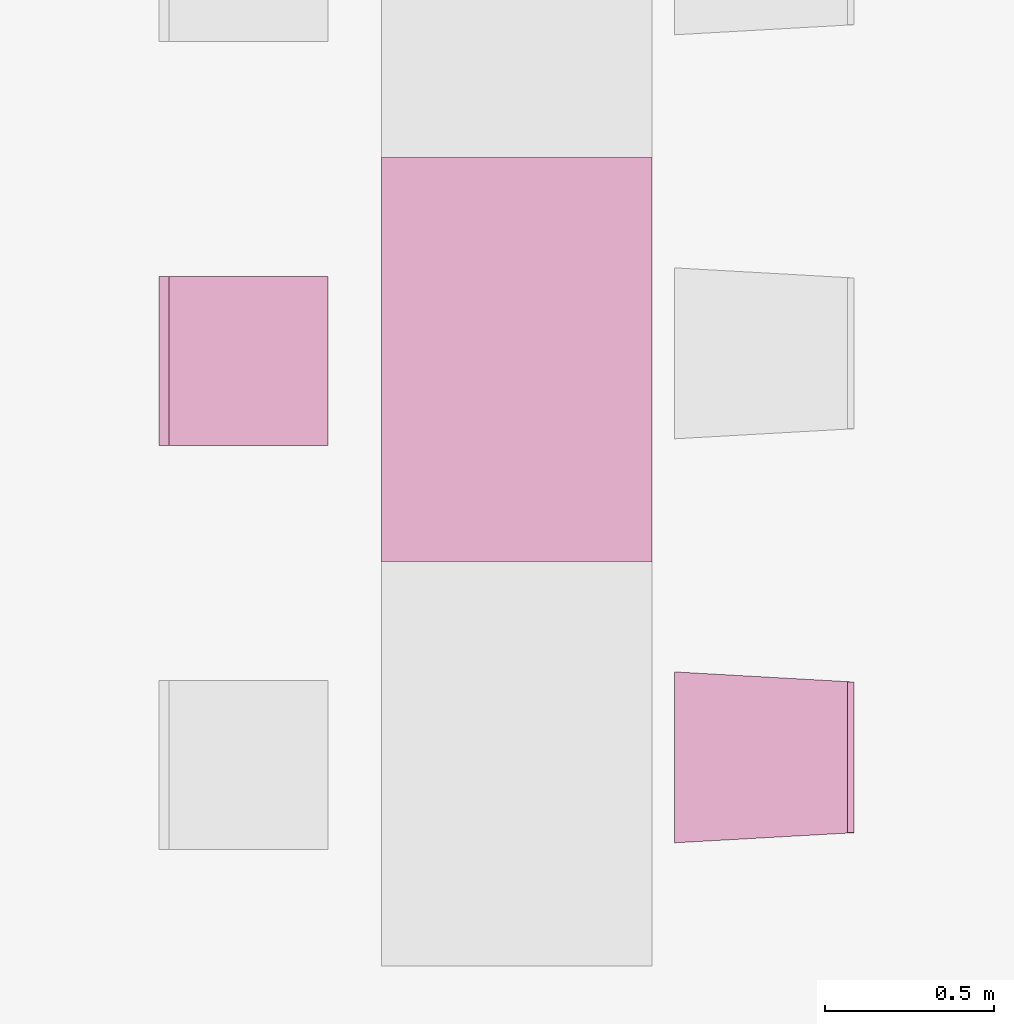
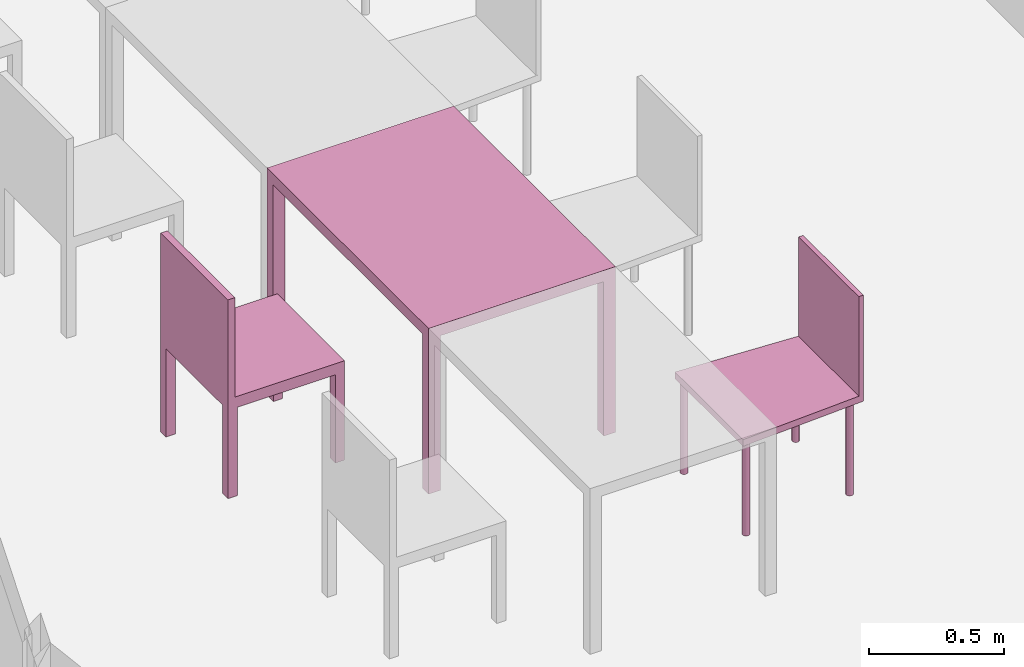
"""IFC4 building model written with IfcOpenShell, lengths in metres."""

from ifc_helpers import new_model, entity, si_unit, converted_unit, derived_unit, frame, origin, place, context, subcontext, project, spatial, faceted_brep, element, save


model = new_model("IFC4")

# Units and contexts
model_context = context("Model", 3, precision=1e-05, world=origin())
body_context = subcontext(model_context, "Body", "Model", "MODEL_VIEW")
ifc_project = project(units=[si_unit("LENGTHUNIT", "METRE"), si_unit("AREAUNIT", "SQUARE_METRE"), si_unit("VOLUMEUNIT", "CUBIC_METRE"), si_unit("MASSUNIT", "GRAM", prefix="KILO"), converted_unit("PLANEANGLEUNIT", "DEGREE", entity("IfcPlaneAngleMeasure", 0.0174532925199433), si_unit("PLANEANGLEUNIT", "RADIAN"), dimensions=[0, 0, 0, 0, 0, 0, 0]), derived_unit("THERMALTRANSMITTANCEUNIT", [(si_unit("POWERUNIT", "WATT"), 1), (si_unit("THERMODYNAMICTEMPERATUREUNIT", "KELVIN"), -1), (si_unit("LENGTHUNIT", "METRE"), -2)]), derived_unit("VOLUMETRICFLOWRATEUNIT", [(si_unit("LENGTHUNIT", "METRE"), 3), (converted_unit("TIMEUNIT", "hour", entity("IfcTimeMeasure", 3600.0), si_unit("TIMEUNIT", "SECOND"), dimensions=[0, 0, 1, 0, 0, 0, 0]), -1), (si_unit("LENGTHUNIT", "METRE"), -1)])], contexts=[model_context])

# Building, storeys
building_placement = place(None, origin())
building = spatial("IfcBuilding", under=ifc_project, at=building_placement, Name="HABITATGE PLURIFAMILIAR", CompositionType="ELEMENT")
storey_1_placement = place(building_placement, frame((0.0, 0.0, 6.25)))
storey_1 = spatial("IfcBuildingStorey", under=building, at=storey_1_placement, Name="PLANTA PRIMERA", CompositionType="ELEMENT", Elevation=6.25)
storey_2_placement = place(storey_1_placement, frame((0.0, 0.0, 3.35)))
storey_2 = spatial("IfcBuildingStorey", under=storey_1, at=storey_2_placement, Name="NOU", CompositionType="PARTIAL")

# Furniture
furniture_1_placement = place(storey_2_placement, frame((418.017336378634, 19.4002786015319, -3.35)))
element("IfcFurniture", 1, at=furniture_1_placement, inside=storey_2, Name="Taula 120X80_P1", context=body_context, shape_type="Brep", body=[
    faceted_brep([(0.750069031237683, 0.0464285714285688, 0.0), (0.750069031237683, 0.0, 0.0), (0.800069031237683, 0.0, 0.0), (0.800069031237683, 0.0464285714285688, 0.0), (0.800069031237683, 0.0464285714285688, 0.7), (0.800069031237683, 0.0, 0.7), (0.750069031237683, 0.0, 0.7), (0.750069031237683, 0.0464285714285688, 0.7)], [[[0, 1, 2, 3]], [[4, 5, 6, 7]], [[3, 4, 7, 0]], [[2, 5, 4, 3]], [[1, 6, 5, 2]], [[0, 7, 6, 1]]], orient=[[False], [False], [False], [False], [False], [False]]),
    faceted_brep([(0.0, 0.0464285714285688, 0.0), (0.0, 0.0, 0.0), (0.0500000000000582, 0.0, 0.0), (0.0500000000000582, 0.0464285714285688, 0.0), (0.0500000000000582, 0.0464285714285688, 0.7), (0.0500000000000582, 0.0, 0.7), (0.0, 0.0, 0.7), (0.0, 0.0464285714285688, 0.7)], [[[0, 1, 2, 3]], [[4, 5, 6, 7]], [[3, 4, 7, 0]], [[2, 5, 4, 3]], [[1, 6, 5, 2]], [[0, 7, 6, 1]]], orient=[[False], [False], [False], [False], [False], [False]]),
    faceted_brep([(0.750069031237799, 1.2, 0.0), (0.750069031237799, 1.15357142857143, 0.0), (0.800069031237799, 1.15357142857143, 0.0), (0.800069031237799, 1.2, 0.0), (0.800069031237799, 1.2, 0.7), (0.800069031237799, 1.15357142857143, 0.7), (0.750069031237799, 1.15357142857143, 0.7), (0.750069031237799, 1.2, 0.7)], [[[0, 1, 2, 3]], [[4, 5, 6, 7]], [[3, 4, 7, 0]], [[2, 5, 4, 3]], [[1, 6, 5, 2]], [[0, 7, 6, 1]]], orient=[[False], [False], [False], [False], [False], [False]]),
    faceted_brep([(0.0, 1.2, 0.0), (0.0, 1.15357142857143, 0.0), (0.0500000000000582, 1.15357142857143, 0.0), (0.0500000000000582, 1.2, 0.0), (0.0500000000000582, 1.2, 0.7), (0.0500000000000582, 1.15357142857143, 0.7), (0.0, 1.15357142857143, 0.7), (0.0, 1.2, 0.7)], [[[0, 1, 2, 3]], [[4, 5, 6, 7]], [[3, 4, 7, 0]], [[2, 5, 4, 3]], [[1, 6, 5, 2]], [[0, 7, 6, 1]]], orient=[[False], [False], [False], [False], [False], [False]]),
    faceted_brep([(0.0, 1.2, 0.7), (0.0, 0.0, 0.7), (0.800069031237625, 0.0, 0.7), (0.800069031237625, 1.2, 0.7), (0.800069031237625, 1.2, 0.75), (0.800069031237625, 0.0, 0.75), (0.0, 0.0, 0.75), (0.0, 1.2, 0.75)], [[[0, 1, 2, 3]], [[4, 5, 6, 7]], [[3, 4, 7, 0]], [[2, 5, 4, 3]], [[1, 6, 5, 2]], [[0, 7, 6, 1]]], orient=[[False], [False], [False], [False], [False], [False]]),
])
furniture_2_placement = place(storey_2_placement, frame((417.357575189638, 19.7462469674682, -3.34942958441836)))
element("IfcFurniture", 2, at=furniture_2_placement, inside=storey_2, Name="Cadira d'Oficina_P1", context=body_context, shape_type="Brep", body=[
    faceted_brep([(0.5, 0.0, 0.4), (0.5, 0.5, 0.4), (0.0, 0.5, 0.4), (0.0, 0.0, 0.4), (0.0, 0.0, 0.45), (0.0, 0.5, 0.45), (0.5, 0.5, 0.45), (0.5, 0.0, 0.45)], [[[0, 1, 2, 3]], [[4, 5, 6, 7]], [[3, 4, 7, 0]], [[2, 5, 4, 3]], [[1, 6, 5, 2]], [[0, 7, 6, 1]]], orient=[[False], [False], [False], [False], [False], [False]]),
    faceted_brep([(0.04, 0.5, 0.0), (0.0, 0.5, 0.0), (0.0, 0.46, 0.0), (0.04, 0.46, 0.0), (0.04, 0.46, 0.4), (0.0, 0.46, 0.4), (0.0, 0.5, 0.4), (0.04, 0.5, 0.4)], [[[0, 1, 2, 3]], [[4, 5, 6, 7]], [[3, 4, 7, 0]], [[2, 5, 4, 3]], [[1, 6, 5, 2]], [[0, 7, 6, 1]]], orient=[[False], [False], [False], [False], [False], [False]]),
    faceted_brep([(0.5, 0.5, 0.0), (0.46, 0.5, 0.0), (0.46, 0.46, 0.0), (0.5, 0.46, 0.0), (0.5, 0.46, 0.4), (0.46, 0.46, 0.4), (0.46, 0.5, 0.4), (0.5, 0.5, 0.4)], [[[0, 1, 2, 3]], [[4, 5, 6, 7]], [[3, 4, 7, 0]], [[2, 5, 4, 3]], [[1, 6, 5, 2]], [[0, 7, 6, 1]]], orient=[[False], [False], [False], [False], [False], [False]]),
    faceted_brep([(0.04, 0.04, 0.0), (0.0, 0.04, 0.0), (0.0, 0.0, 0.0), (0.04, 0.0, 0.0), (0.04, 0.0, 0.4), (0.0, 0.0, 0.4), (0.0, 0.04, 0.4), (0.04, 0.04, 0.4)], [[[0, 1, 2, 3]], [[4, 5, 6, 7]], [[3, 4, 7, 0]], [[2, 5, 4, 3]], [[1, 6, 5, 2]], [[0, 7, 6, 1]]], orient=[[False], [False], [False], [False], [False], [False]]),
    faceted_brep([(0.5, 0.04, 0.0), (0.46, 0.04, 0.0), (0.46, 0.0, 0.0), (0.5, 0.0, 0.0), (0.5, 0.0, 0.4), (0.46, 0.0, 0.4), (0.46, 0.04, 0.4), (0.5, 0.04, 0.4)], [[[0, 1, 2, 3]], [[4, 5, 6, 7]], [[3, 4, 7, 0]], [[2, 5, 4, 3]], [[1, 6, 5, 2]], [[0, 7, 6, 1]]], orient=[[False], [False], [False], [False], [False], [False]]),
    faceted_brep([(0.03, 0.5, 0.45), (0.0, 0.5, 0.45), (0.0, 0.0, 0.45), (0.03, 0.0, 0.45), (0.03, 0.0, 0.9), (0.0, 0.0, 0.9), (0.0, 0.5, 0.9), (0.03, 0.5, 0.9)], [[[0, 1, 2, 3]], [[4, 5, 6, 7]], [[3, 4, 7, 0]], [[2, 5, 4, 3]], [[1, 6, 5, 2]], [[0, 7, 6, 1]]], orient=[[False], [False], [False], [False], [False], [False]]),
])
furniture_3_placement = place(storey_2_placement, frame((418.884487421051, 18.5688008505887, -3.35114412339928)))
element("IfcFurniture", 3, at=furniture_3_placement, inside=storey_2, Name="Cadira confient_P1", context=body_context, shape_type="Brep", body=[
    faceted_brep([(0.0250324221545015, 0.497227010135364, 0.0), (0.0224394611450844, 0.496988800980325, 0.0), (0.0199272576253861, 0.496303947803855, 0.0), (0.0175721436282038, 0.495193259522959, 0.0), (0.0154456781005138, 0.493690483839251, 0.0), (0.013612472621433, 0.491841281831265, 0.0), (0.0121282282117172, 0.489701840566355, 0.0), (0.0110380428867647, 0.487337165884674, 0.0), (0.010375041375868, 0.484819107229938, 0.0), (0.0101593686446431, 0.482224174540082, 0.0), (0.0103975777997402, 0.479631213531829, 0.0), (0.0110824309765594, 0.477119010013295, 0.0), (0.0121931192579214, 0.474763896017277, 0.0), (0.0136958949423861, 0.472637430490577, 0.0), (0.0155450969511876, 0.470804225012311, 0.0), (0.017684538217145, 0.469319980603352, 0.0), (0.020049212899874, 0.468229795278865, 0.0), (0.0225672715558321, 0.467566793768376, 0.0), (0.0251622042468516, 0.467351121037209, 0.0), (0.027755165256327, 0.46758933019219, 0.0), (0.030267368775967, 0.468274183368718, 0.0), (0.0326224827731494, 0.469384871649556, 0.0), (0.0347489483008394, 0.470887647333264, 0.0), (0.0365821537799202, 0.472736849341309, 0.0), (0.0380663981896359, 0.474876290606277, 0.0), (0.0391565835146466, 0.477240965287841, 0.0), (0.0398195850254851, 0.479759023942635, 0.0), (0.0400352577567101, 0.482353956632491, 0.0), (0.0397970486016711, 0.484946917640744, 0.0), (0.0391121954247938, 0.48745912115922, 0.0), (0.03800150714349, 0.489814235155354, 0.0), (0.0364987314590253, 0.491940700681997, 0.0), (0.0346495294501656, 0.493773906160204, 0.0), (0.0325100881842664, 0.495258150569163, 0.0), (0.0301454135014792, 0.496348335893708, 0.0), (0.0276273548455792, 0.497011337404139, 0.0), (0.0250324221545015, 0.497227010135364, 0.448281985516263), (0.0276273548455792, 0.497011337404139, 0.448281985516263), (0.0301454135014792, 0.496348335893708, 0.448281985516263), (0.0325100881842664, 0.495258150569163, 0.448281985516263), (0.0346495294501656, 0.493773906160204, 0.448281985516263), (0.0364987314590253, 0.491940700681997, 0.448281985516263), (0.03800150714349, 0.489814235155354, 0.448281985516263), (0.0391121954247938, 0.48745912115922, 0.448281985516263), (0.0397970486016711, 0.484946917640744, 0.448281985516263), (0.0400352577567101, 0.482353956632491, 0.448281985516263), (0.0398195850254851, 0.479759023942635, 0.448281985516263), (0.0391565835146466, 0.477240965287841, 0.448281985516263), (0.0380663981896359, 0.474876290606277, 0.448281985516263), (0.0365821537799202, 0.472736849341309, 0.448281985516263), (0.0347489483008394, 0.470887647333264, 0.448281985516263), (0.0326224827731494, 0.469384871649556, 0.448281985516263), (0.030267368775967, 0.468274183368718, 0.448281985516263), (0.027755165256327, 0.46758933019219, 0.448281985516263), (0.0251622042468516, 0.467351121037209, 0.448281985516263), (0.0225672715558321, 0.467566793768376, 0.448281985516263), (0.020049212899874, 0.468229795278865, 0.448281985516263), (0.017684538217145, 0.469319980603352, 0.448281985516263), (0.0155450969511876, 0.470804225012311, 0.448281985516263), (0.0136958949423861, 0.472637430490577, 0.448281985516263), (0.0121931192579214, 0.474763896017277, 0.448281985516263), (0.0110824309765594, 0.477119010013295, 0.448281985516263), (0.0103975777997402, 0.479631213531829, 0.448281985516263), (0.0101593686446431, 0.482224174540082, 0.448281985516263), (0.010375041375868, 0.484819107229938, 0.448281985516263), (0.0110380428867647, 0.487337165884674, 0.448281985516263), (0.0121282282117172, 0.489701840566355, 0.448281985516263), (0.013612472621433, 0.491841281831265, 0.448281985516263), (0.0154456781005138, 0.493690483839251, 0.448281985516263), (0.0175721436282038, 0.495193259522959, 0.448281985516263), (0.0199272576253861, 0.496303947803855, 0.448281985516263), (0.0224394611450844, 0.496988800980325, 0.448281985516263)], [[[0, 1, 2, 3, 4, 5, 6, 7, 8, 9, 10, 11, 12, 13, 14, 15, 16, 17, 18, 19, 20, 21, 22, 23, 24, 25, 26, 27, 28, 29, 30, 31, 32, 33, 34, 35]], [[36, 37, 38, 39, 40, 41, 42, 43, 44, 45, 46, 47, 48, 49, 50, 51, 52, 53, 54, 55, 56, 57, 58, 59, 60, 61, 62, 63, 64, 65, 66, 67, 68, 69, 70, 71]], [[35, 37, 36, 0]], [[34, 38, 37, 35]], [[33, 39, 38, 34]], [[32, 40, 39, 33]], [[31, 41, 40, 32]], [[30, 42, 41, 31]], [[29, 43, 42, 30]], [[28, 44, 43, 29]], [[27, 45, 44, 28]], [[26, 46, 45, 27]], [[25, 47, 46, 26]], [[24, 48, 47, 25]], [[23, 49, 48, 24]], [[22, 50, 49, 23]], [[21, 51, 50, 22]], [[20, 52, 51, 21]], [[19, 53, 52, 20]], [[18, 54, 53, 19]], [[17, 55, 54, 18]], [[16, 56, 55, 17]], [[15, 57, 56, 16]], [[14, 58, 57, 15]], [[13, 59, 58, 14]], [[12, 60, 59, 13]], [[11, 61, 60, 12]], [[10, 62, 61, 11]], [[9, 63, 62, 10]], [[8, 64, 63, 9]], [[7, 65, 64, 8]], [[6, 66, 65, 7]], [[5, 67, 66, 6]], [[4, 68, 67, 5]], [[3, 69, 68, 4]], [[2, 70, 69, 3]], [[1, 71, 70, 2]], [[0, 36, 71, 1]]], orient=[[False], [False], [False], [False], [False], [False], [False], [False], [False], [False], [False], [False], [False], [False], [False], [False], [False], [False], [False], [False], [False], [False], [False], [False], [False], [False], [False], [False], [False], [False], [False], [False], [False], [False], [False], [False], [False], [False]]),
    faceted_brep([(0.487439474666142, 0.469589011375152, 0.0), (0.484846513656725, 0.469350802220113, 0.0), (0.482334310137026, 0.468665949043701, 0.0), (0.479979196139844, 0.467555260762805, 0.0), (0.477852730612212, 0.466052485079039, 0.0), (0.476019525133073, 0.464203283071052, 0.0), (0.474535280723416, 0.462063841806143, 0.0), (0.473445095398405, 0.45969916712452, 0.0), (0.472782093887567, 0.457181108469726, 0.0), (0.472566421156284, 0.45458617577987, 0.0), (0.472804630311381, 0.451993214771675, 0.0), (0.473489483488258, 0.449481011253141, 0.0), (0.474600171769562, 0.447125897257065, 0.0), (0.476102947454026, 0.444999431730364, 0.0), (0.477952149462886, 0.443166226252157, 0.0), (0.480091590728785, 0.441681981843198, 0.0), (0.482456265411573, 0.440591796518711, 0.0), (0.484974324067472, 0.439928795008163, 0.0), (0.48756925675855, 0.439713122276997, 0.0), (0.490162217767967, 0.439951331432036, 0.0), (0.492674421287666, 0.440636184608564, 0.0), (0.495029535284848, 0.441746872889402, 0.0), (0.49715600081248, 0.443249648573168, 0.0), (0.498989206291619, 0.445098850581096, 0.0), (0.500473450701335, 0.447238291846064, 0.0), (0.501563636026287, 0.449602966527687, 0.0), (0.502226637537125, 0.452121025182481, 0.0), (0.502442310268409, 0.454715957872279, 0.0), (0.502204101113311, 0.457308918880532, 0.0), (0.501519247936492, 0.459821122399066, 0.0), (0.50040855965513, 0.462176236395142, 0.0), (0.498905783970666, 0.464302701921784, 0.0), (0.497056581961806, 0.46613590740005, 0.0), (0.494917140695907, 0.467620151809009, 0.0), (0.492552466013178, 0.468710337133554, 0.0), (0.49003440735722, 0.469373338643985, 0.0), (0.487439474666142, 0.469589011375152, 0.448281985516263), (0.49003440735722, 0.469373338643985, 0.448281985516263), (0.492552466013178, 0.468710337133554, 0.448281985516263), (0.494917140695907, 0.467620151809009, 0.448281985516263), (0.497056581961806, 0.46613590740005, 0.448281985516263), (0.498905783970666, 0.464302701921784, 0.448281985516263), (0.50040855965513, 0.462176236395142, 0.448281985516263), (0.501519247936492, 0.459821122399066, 0.448281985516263), (0.502204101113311, 0.457308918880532, 0.448281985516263), (0.502442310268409, 0.454715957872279, 0.448281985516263), (0.502226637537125, 0.452121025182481, 0.448281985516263), (0.501563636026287, 0.449602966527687, 0.448281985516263), (0.500473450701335, 0.447238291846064, 0.448281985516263), (0.498989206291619, 0.445098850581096, 0.448281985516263), (0.49715600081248, 0.443249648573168, 0.448281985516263), (0.495029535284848, 0.441746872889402, 0.448281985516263), (0.492674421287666, 0.440636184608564, 0.448281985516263), (0.490162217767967, 0.439951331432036, 0.448281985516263), (0.48756925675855, 0.439713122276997, 0.448281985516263), (0.484974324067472, 0.439928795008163, 0.448281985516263), (0.482456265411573, 0.440591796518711, 0.448281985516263), (0.480091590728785, 0.441681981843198, 0.448281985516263), (0.477952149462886, 0.443166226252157, 0.448281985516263), (0.476102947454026, 0.444999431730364, 0.448281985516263), (0.474600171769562, 0.447125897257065, 0.448281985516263), (0.473489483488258, 0.449481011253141, 0.448281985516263), (0.472804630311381, 0.451993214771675, 0.448281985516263), (0.472566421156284, 0.45458617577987, 0.448281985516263), (0.472782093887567, 0.457181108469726, 0.448281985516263), (0.473445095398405, 0.45969916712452, 0.448281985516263), (0.474535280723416, 0.462063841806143, 0.448281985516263), (0.476019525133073, 0.464203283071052, 0.448281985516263), (0.477852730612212, 0.466052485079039, 0.448281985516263), (0.479979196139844, 0.467555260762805, 0.448281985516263), (0.482334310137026, 0.468665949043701, 0.448281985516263), (0.484846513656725, 0.469350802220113, 0.448281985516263)], [[[0, 1, 2, 3, 4, 5, 6, 7, 8, 9, 10, 11, 12, 13, 14, 15, 16, 17, 18, 19, 20, 21, 22, 23, 24, 25, 26, 27, 28, 29, 30, 31, 32, 33, 34, 35]], [[36, 37, 38, 39, 40, 41, 42, 43, 44, 45, 46, 47, 48, 49, 50, 51, 52, 53, 54, 55, 56, 57, 58, 59, 60, 61, 62, 63, 64, 65, 66, 67, 68, 69, 70, 71]], [[35, 37, 36, 0]], [[34, 38, 37, 35]], [[33, 39, 38, 34]], [[32, 40, 39, 33]], [[31, 41, 40, 32]], [[30, 42, 41, 31]], [[29, 43, 42, 30]], [[28, 44, 43, 29]], [[27, 45, 44, 28]], [[26, 46, 45, 27]], [[25, 47, 46, 26]], [[24, 48, 47, 25]], [[23, 49, 48, 24]], [[22, 50, 49, 23]], [[21, 51, 50, 22]], [[20, 52, 51, 21]], [[19, 53, 52, 20]], [[18, 54, 53, 19]], [[17, 55, 54, 18]], [[16, 56, 55, 17]], [[15, 57, 56, 16]], [[14, 58, 57, 15]], [[13, 59, 58, 14]], [[12, 60, 59, 13]], [[11, 61, 60, 12]], [[10, 62, 61, 11]], [[9, 63, 62, 10]], [[8, 64, 63, 9]], [[7, 65, 64, 8]], [[6, 66, 65, 7]], [[5, 67, 66, 6]], [[4, 68, 67, 5]], [[3, 69, 68, 4]], [[2, 70, 69, 3]], [[1, 71, 70, 2]], [[0, 36, 71, 1]]], orient=[[False], [False], [False], [False], [False], [False], [False], [False], [False], [False], [False], [False], [False], [False], [False], [False], [False], [False], [False], [False], [False], [False], [False], [False], [False], [False], [False], [False], [False], [False], [False], [False], [False], [False], [False], [False], [False], [False]]),
    faceted_brep([(0.0250324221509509, 0.037227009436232, 0.0), (0.0224394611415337, 0.0369888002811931, 0.0), (0.0199272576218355, 0.036303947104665, 0.0), (0.0175721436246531, 0.0351932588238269, 0.0), (0.0154456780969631, 0.0336904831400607, 0.0), (0.0136124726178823, 0.0318412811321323, 0.0), (0.0121282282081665, 0.0297018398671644, 0.0), (0.0110380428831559, 0.0273371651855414, 0.0), (0.0103750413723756, 0.0248191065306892, 0.0), (0.0101593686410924, 0.022224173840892, 0.0), (0.0103975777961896, 0.019631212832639, 0.0), (0.0110824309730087, 0.0171190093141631, 0.0), (0.0121931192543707, 0.0147638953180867, 0.0), (0.0136958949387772, 0.0126374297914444, 0.0), (0.0155450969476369, 0.0108042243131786, 0.0), (0.0176845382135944, 0.00931997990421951, 0.0), (0.0200492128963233, 0.00822979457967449, 0.0), (0.0225672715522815, 0.00756679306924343, 0.0), (0.0251622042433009, 0.00735112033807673, 0.0), (0.0277551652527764, 0.00758932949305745, 0.0), (0.0302673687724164, 0.00827418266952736, 0.0), (0.0326224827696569, 0.00938487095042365, 0.0), (0.0347489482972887, 0.0108876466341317, 0.0), (0.0365821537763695, 0.0127368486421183, 0.0), (0.0380663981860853, 0.014876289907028, 0.0), (0.039156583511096, 0.0172409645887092, 0.0), (0.0398195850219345, 0.0197590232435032, 0.0), (0.0400352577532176, 0.0223539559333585, 0.0), (0.0397970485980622, 0.0249469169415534, 0.0), (0.0391121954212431, 0.0274591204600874, 0.0), (0.0380015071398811, 0.0298142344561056, 0.0), (0.0364987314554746, 0.0319406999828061, 0.0), (0.0346495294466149, 0.0337739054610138, 0.0), (0.0325100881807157, 0.035258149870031, 0.0), (0.0301454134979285, 0.0363483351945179, 0.0), (0.0276273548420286, 0.0370113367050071, 0.0), (0.0250324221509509, 0.037227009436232, 0.448281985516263), (0.0276273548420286, 0.0370113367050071, 0.448281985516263), (0.0301454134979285, 0.0363483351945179, 0.448281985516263), (0.0325100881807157, 0.035258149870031, 0.448281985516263), (0.0346495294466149, 0.0337739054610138, 0.448281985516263), (0.0364987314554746, 0.0319406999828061, 0.448281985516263), (0.0380015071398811, 0.0298142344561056, 0.448281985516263), (0.0391121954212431, 0.0274591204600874, 0.448281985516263), (0.0397970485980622, 0.0249469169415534, 0.448281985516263), (0.0400352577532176, 0.0223539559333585, 0.448281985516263), (0.0398195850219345, 0.0197590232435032, 0.448281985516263), (0.039156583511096, 0.0172409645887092, 0.448281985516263), (0.0380663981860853, 0.014876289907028, 0.448281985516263), (0.0365821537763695, 0.0127368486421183, 0.448281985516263), (0.0347489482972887, 0.0108876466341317, 0.448281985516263), (0.0326224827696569, 0.00938487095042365, 0.448281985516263), (0.0302673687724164, 0.00827418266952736, 0.448281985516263), (0.0277551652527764, 0.00758932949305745, 0.448281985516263), (0.0251622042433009, 0.00735112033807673, 0.448281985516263), (0.0225672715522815, 0.00756679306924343, 0.448281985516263), (0.0200492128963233, 0.00822979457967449, 0.448281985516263), (0.0176845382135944, 0.00931997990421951, 0.448281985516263), (0.0155450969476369, 0.0108042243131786, 0.448281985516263), (0.0136958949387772, 0.0126374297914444, 0.448281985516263), (0.0121931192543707, 0.0147638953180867, 0.448281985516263), (0.0110824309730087, 0.0171190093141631, 0.448281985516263), (0.0103975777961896, 0.019631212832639, 0.448281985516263), (0.0101593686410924, 0.022224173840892, 0.448281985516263), (0.0103750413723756, 0.0248191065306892, 0.448281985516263), (0.0110380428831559, 0.0273371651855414, 0.448281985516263), (0.0121282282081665, 0.0297018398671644, 0.448281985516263), (0.0136124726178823, 0.0318412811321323, 0.448281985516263), (0.0154456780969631, 0.0336904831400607, 0.448281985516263), (0.0175721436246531, 0.0351932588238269, 0.448281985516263), (0.0199272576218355, 0.036303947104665, 0.448281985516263), (0.0224394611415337, 0.0369888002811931, 0.448281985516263)], [[[0, 1, 2, 3, 4, 5, 6, 7, 8, 9, 10, 11, 12, 13, 14, 15, 16, 17, 18, 19, 20, 21, 22, 23, 24, 25, 26, 27, 28, 29, 30, 31, 32, 33, 34, 35]], [[36, 37, 38, 39, 40, 41, 42, 43, 44, 45, 46, 47, 48, 49, 50, 51, 52, 53, 54, 55, 56, 57, 58, 59, 60, 61, 62, 63, 64, 65, 66, 67, 68, 69, 70, 71]], [[35, 37, 36, 0]], [[34, 38, 37, 35]], [[33, 39, 38, 34]], [[32, 40, 39, 33]], [[31, 41, 40, 32]], [[30, 42, 41, 31]], [[29, 43, 42, 30]], [[28, 44, 43, 29]], [[27, 45, 44, 28]], [[26, 46, 45, 27]], [[25, 47, 46, 26]], [[24, 48, 47, 25]], [[23, 49, 48, 24]], [[22, 50, 49, 23]], [[21, 51, 50, 22]], [[20, 52, 51, 21]], [[19, 53, 52, 20]], [[18, 54, 53, 19]], [[17, 55, 54, 18]], [[16, 56, 55, 17]], [[15, 57, 56, 16]], [[14, 58, 57, 15]], [[13, 59, 58, 14]], [[12, 60, 59, 13]], [[11, 61, 60, 12]], [[10, 62, 61, 11]], [[9, 63, 62, 10]], [[8, 64, 63, 9]], [[7, 65, 64, 8]], [[6, 66, 65, 7]], [[5, 67, 66, 6]], [[4, 68, 67, 5]], [[3, 69, 68, 4]], [[2, 70, 69, 3]], [[1, 71, 70, 2]], [[0, 36, 71, 1]]], orient=[[False], [False], [False], [False], [False], [False], [False], [False], [False], [False], [False], [False], [False], [False], [False], [False], [False], [False], [False], [False], [False], [False], [False], [False], [False], [False], [False], [False], [False], [False], [False], [False], [False], [False], [False], [False], [False], [False]]),
    faceted_brep([(0.487439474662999, 0.0695890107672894, 0.0), (0.484846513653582, 0.0693508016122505, 0.0), (0.482334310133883, 0.0686659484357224, 0.0), (0.479979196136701, 0.0675552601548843, 0.0), (0.477852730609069, 0.0660524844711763, 0.0), (0.47601952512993, 0.0642032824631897, 0.0), (0.474535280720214, 0.0620638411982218, 0.0), (0.473445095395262, 0.0596991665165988, 0.0), (0.472782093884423, 0.0571811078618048, 0.0), (0.47256642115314, 0.0545861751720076, 0.0), (0.472804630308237, 0.0519932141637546, 0.0), (0.473489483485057, 0.0494810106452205, 0.0), (0.474600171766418, 0.0471258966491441, 0.0), (0.476102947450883, 0.0449994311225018, 0.0), (0.477952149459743, 0.043166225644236, 0.0), (0.480091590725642, 0.0416819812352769, 0.0), (0.482456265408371, 0.0405917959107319, 0.0), (0.484974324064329, 0.0399287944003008, 0.0), (0.487569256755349, 0.0397131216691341, 0.0), (0.490162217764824, 0.0399513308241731, 0.0), (0.492674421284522, 0.0406361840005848, 0.0), (0.495029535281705, 0.041746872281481, 0.0), (0.497156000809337, 0.0432496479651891, 0.0), (0.498989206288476, 0.0450988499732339, 0.0), (0.500473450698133, 0.0472382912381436, 0.0), (0.501563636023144, 0.0496029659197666, 0.0), (0.502226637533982, 0.0521210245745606, 0.0), (0.502442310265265, 0.0547159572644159, 0.0), (0.502204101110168, 0.0573089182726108, 0.0), (0.501519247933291, 0.0598211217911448, 0.0), (0.500408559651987, 0.0621762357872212, 0.0), (0.498905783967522, 0.0643027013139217, 0.0), (0.497056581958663, 0.0661359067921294, 0.0), (0.494917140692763, 0.0676201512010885, 0.0), (0.492552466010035, 0.0687103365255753, 0.0), (0.490034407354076, 0.0693733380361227, 0.0), (0.487439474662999, 0.0695890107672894, 0.448281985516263), (0.490034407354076, 0.0693733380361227, 0.448281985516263), (0.492552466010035, 0.0687103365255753, 0.448281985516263), (0.494917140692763, 0.0676201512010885, 0.448281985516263), (0.497056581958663, 0.0661359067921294, 0.448281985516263), (0.498905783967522, 0.0643027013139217, 0.448281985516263), (0.500408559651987, 0.0621762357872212, 0.448281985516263), (0.501519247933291, 0.0598211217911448, 0.448281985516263), (0.502204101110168, 0.0573089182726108, 0.448281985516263), (0.502442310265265, 0.0547159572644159, 0.448281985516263), (0.502226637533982, 0.0521210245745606, 0.448281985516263), (0.501563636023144, 0.0496029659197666, 0.448281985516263), (0.500473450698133, 0.0472382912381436, 0.448281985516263), (0.498989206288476, 0.0450988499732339, 0.448281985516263), (0.497156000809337, 0.0432496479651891, 0.448281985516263), (0.495029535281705, 0.041746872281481, 0.448281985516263), (0.492674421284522, 0.0406361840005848, 0.448281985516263), (0.490162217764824, 0.0399513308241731, 0.448281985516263), (0.487569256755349, 0.0397131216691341, 0.448281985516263), (0.484974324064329, 0.0399287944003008, 0.448281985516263), (0.482456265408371, 0.0405917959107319, 0.448281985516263), (0.480091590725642, 0.0416819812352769, 0.448281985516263), (0.477952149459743, 0.043166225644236, 0.448281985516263), (0.476102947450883, 0.0449994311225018, 0.448281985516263), (0.474600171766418, 0.0471258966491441, 0.448281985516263), (0.473489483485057, 0.0494810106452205, 0.448281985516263), (0.472804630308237, 0.0519932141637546, 0.448281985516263), (0.47256642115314, 0.0545861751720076, 0.448281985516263), (0.472782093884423, 0.0571811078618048, 0.448281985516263), (0.473445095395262, 0.0596991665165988, 0.448281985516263), (0.474535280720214, 0.0620638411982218, 0.448281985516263), (0.47601952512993, 0.0642032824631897, 0.448281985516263), (0.477852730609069, 0.0660524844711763, 0.448281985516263), (0.479979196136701, 0.0675552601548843, 0.448281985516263), (0.482334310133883, 0.0686659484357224, 0.448281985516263), (0.484846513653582, 0.0693508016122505, 0.448281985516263)], [[[0, 1, 2, 3, 4, 5, 6, 7, 8, 9, 10, 11, 12, 13, 14, 15, 16, 17, 18, 19, 20, 21, 22, 23, 24, 25, 26, 27, 28, 29, 30, 31, 32, 33, 34, 35]], [[36, 37, 38, 39, 40, 41, 42, 43, 44, 45, 46, 47, 48, 49, 50, 51, 52, 53, 54, 55, 56, 57, 58, 59, 60, 61, 62, 63, 64, 65, 66, 67, 68, 69, 70, 71]], [[35, 37, 36, 0]], [[34, 38, 37, 35]], [[33, 39, 38, 34]], [[32, 40, 39, 33]], [[31, 41, 40, 32]], [[30, 42, 41, 31]], [[29, 43, 42, 30]], [[28, 44, 43, 29]], [[27, 45, 44, 28]], [[26, 46, 45, 27]], [[25, 47, 46, 26]], [[24, 48, 47, 25]], [[23, 49, 48, 24]], [[22, 50, 49, 23]], [[21, 51, 50, 22]], [[20, 52, 51, 21]], [[19, 53, 52, 20]], [[18, 54, 53, 19]], [[17, 55, 54, 18]], [[16, 56, 55, 17]], [[15, 57, 56, 16]], [[14, 58, 57, 15]], [[13, 59, 58, 14]], [[12, 60, 59, 13]], [[11, 61, 60, 12]], [[10, 62, 61, 11]], [[9, 63, 62, 10]], [[8, 64, 63, 9]], [[7, 65, 64, 8]], [[6, 66, 65, 7]], [[5, 67, 66, 6]], [[4, 68, 67, 5]], [[3, 69, 68, 4]], [[2, 70, 69, 3]], [[1, 71, 70, 2]], [[0, 36, 71, 1]]], orient=[[False], [False], [False], [False], [False], [False], [False], [False], [False], [False], [False], [False], [False], [False], [False], [False], [False], [False], [False], [False], [False], [False], [False], [False], [False], [False], [False], [False], [False], [False], [False], [False], [False], [False], [False], [False], [False], [False]]),
    faceted_brep([(0.532607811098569, 0.030000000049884, 0.418281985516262), (0.53260781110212, 0.476514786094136, 0.418281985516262), (0.0, 0.506514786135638, 0.418281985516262), (0.0, 0.0, 0.418281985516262), (0.0, 0.0, 0.448281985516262), (0.0, 0.506514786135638, 0.448281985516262), (0.53260781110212, 0.476514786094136, 0.448281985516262), (0.532607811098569, 0.030000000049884, 0.448281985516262)], [[[0, 1, 2, 3]], [[4, 5, 6, 7]], [[3, 4, 7, 0]], [[2, 5, 4, 3]], [[1, 6, 5, 2]], [[0, 7, 6, 1]]], orient=[[False], [False], [False], [False], [False], [False]]),
    faceted_brep([(0.512607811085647, 0.0300000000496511, 0.448281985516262), (0.532607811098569, 0.030000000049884, 0.448281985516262), (0.532607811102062, 0.476514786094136, 0.448281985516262), (0.512607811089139, 0.47651478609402, 0.448281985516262), (0.512607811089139, 0.47651478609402, 0.898281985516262), (0.532607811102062, 0.476514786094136, 0.898281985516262), (0.532607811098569, 0.030000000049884, 0.898281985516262), (0.512607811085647, 0.0300000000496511, 0.898281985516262)], [[[0, 1, 2, 3]], [[4, 5, 6, 7]], [[3, 4, 7, 0]], [[2, 5, 4, 3]], [[1, 6, 5, 2]], [[0, 7, 6, 1]]], orient=[[False], [False], [False], [False], [False], [False]]),
])

save(model, "model.ifc")
